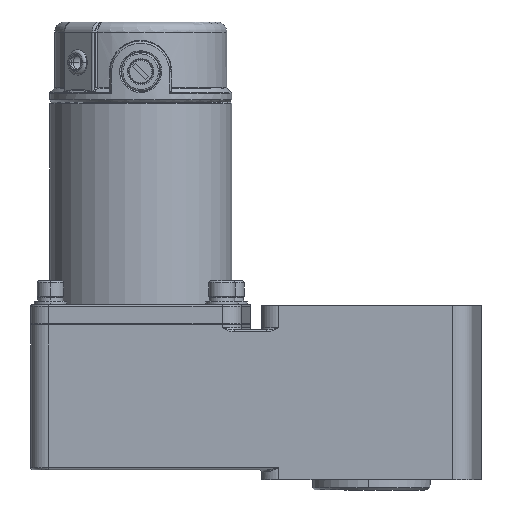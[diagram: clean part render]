
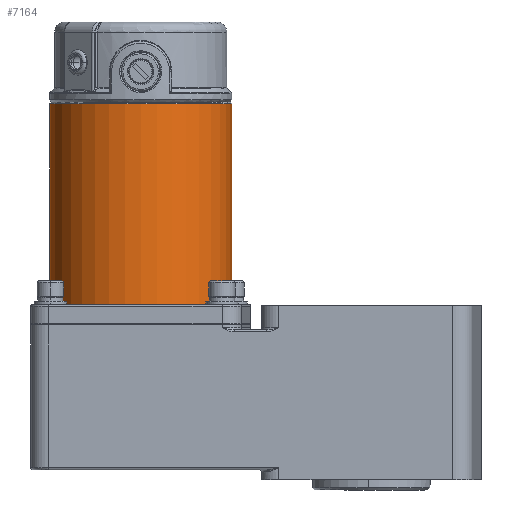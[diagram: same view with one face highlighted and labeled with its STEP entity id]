
A CAD part, front view. The second image highlights one B-rep face of the part: STEP entity #7164.
In plain terms, the highlighted cylindrical face has radius 45 mm (diameter 90 mm), a partial arc.
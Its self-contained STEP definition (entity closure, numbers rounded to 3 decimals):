
#468 = EDGE_LOOP ( 'NONE', ( #1233, #25617, #23092, #7050, #22576 ) ) ;
#1233 = ORIENTED_EDGE ( 'NONE', *, *, #13125, .T. ) ;
#2249 = DIRECTION ( 'NONE',  ( 0., 0., 1. ) ) ;
#2670 = DIRECTION ( 'NONE',  ( 0., 0., 1. ) ) ;
#3449 = LINE ( 'NONE', #7141, #26827 ) ;
#4377 = DIRECTION ( 'NONE',  ( 0., 1., 0. ) ) ;
#4552 = CARTESIAN_POINT ( 'NONE',  ( -7.759, 0., 0. ) ) ;
#4885 = CARTESIAN_POINT ( 'NONE',  ( -7.759, 100., 45. ) ) ;
#5057 = CARTESIAN_POINT ( 'NONE',  ( -7.759, 100., 0. ) ) ;
#5217 = CARTESIAN_POINT ( 'NONE',  ( -7.759, 0.828, 45. ) ) ;
#6748 = AXIS2_PLACEMENT_3D ( 'NONE', #26682, #15927, #2670 ) ;
#7050 = ORIENTED_EDGE ( 'NONE', *, *, #22736, .F. ) ;
#7141 = CARTESIAN_POINT ( 'NONE',  ( -7.759, 0., -45. ) ) ;
#7164 = ADVANCED_FACE ( 'NONE', ( #27872 ), #23531, .T. ) ;
#7364 = VERTEX_POINT ( 'NONE', #16083 ) ;
#7985 = DIRECTION ( 'NONE',  ( 0., 0., 1. ) ) ;
#8509 = CIRCLE ( 'NONE', #21767, 45. ) ;
#10744 = VERTEX_POINT ( 'NONE', #23287 ) ;
#12148 = VECTOR ( 'NONE', #16625, 1000. ) ;
#13125 = EDGE_CURVE ( 'NONE', #7364, #16988, #8509, .T. ) ;
#13755 = DIRECTION ( 'NONE',  ( 0., -1., 0. ) ) ;
#14567 = CIRCLE ( 'NONE', #18220, 45. ) ;
#15777 = EDGE_CURVE ( 'NONE', #16988, #10744, #3449, .T. ) ;
#15889 = DIRECTION ( 'NONE',  ( 0., 1., 0. ) ) ;
#15927 = DIRECTION ( 'NONE',  ( 0., 1., 0. ) ) ;
#16083 = CARTESIAN_POINT ( 'NONE',  ( 37.241, 0.828, 0. ) ) ;
#16625 = DIRECTION ( 'NONE',  ( 0., 1., 0. ) ) ;
#16988 = VERTEX_POINT ( 'NONE', #24696 ) ;
#17263 = DIRECTION ( 'NONE',  ( 0., 1., 0. ) ) ;
#18161 = CIRCLE ( 'NONE', #6748, 45. ) ;
#18210 = CARTESIAN_POINT ( 'NONE',  ( -7.759, 0., 45. ) ) ;
#18220 = AXIS2_PLACEMENT_3D ( 'NONE', #5057, #13755, #7985 ) ;
#18332 = LINE ( 'NONE', #18210, #12148 ) ;
#18357 = EDGE_CURVE ( 'NONE', #23508, #7364, #18161, .T. ) ;
#18824 = EDGE_CURVE ( 'NONE', #10744, #20752, #14567, .T. ) ;
#20752 = VERTEX_POINT ( 'NONE', #4885 ) ;
#21767 = AXIS2_PLACEMENT_3D ( 'NONE', #23936, #4377, #2249 ) ;
#22576 = ORIENTED_EDGE ( 'NONE', *, *, #18357, .T. ) ;
#22736 = EDGE_CURVE ( 'NONE', #23508, #20752, #18332, .T. ) ;
#23092 = ORIENTED_EDGE ( 'NONE', *, *, #18824, .T. ) ;
#23287 = CARTESIAN_POINT ( 'NONE',  ( -7.759, 100., -45. ) ) ;
#23508 = VERTEX_POINT ( 'NONE', #5217 ) ;
#23531 = CYLINDRICAL_SURFACE ( 'NONE', #26768, 45. ) ;
#23936 = CARTESIAN_POINT ( 'NONE',  ( -7.759, 0.828, 0. ) ) ;
#24696 = CARTESIAN_POINT ( 'NONE',  ( -7.759, 0.828, -45. ) ) ;
#25617 = ORIENTED_EDGE ( 'NONE', *, *, #15777, .T. ) ;
#26130 = DIRECTION ( 'NONE',  ( 0., 0., 1. ) ) ;
#26682 = CARTESIAN_POINT ( 'NONE',  ( -7.759, 0.828, 0. ) ) ;
#26768 = AXIS2_PLACEMENT_3D ( 'NONE', #4552, #17263, #26130 ) ;
#26827 = VECTOR ( 'NONE', #15889, 1000. ) ;
#27872 = FACE_OUTER_BOUND ( 'NONE', #468, .T. ) ;
